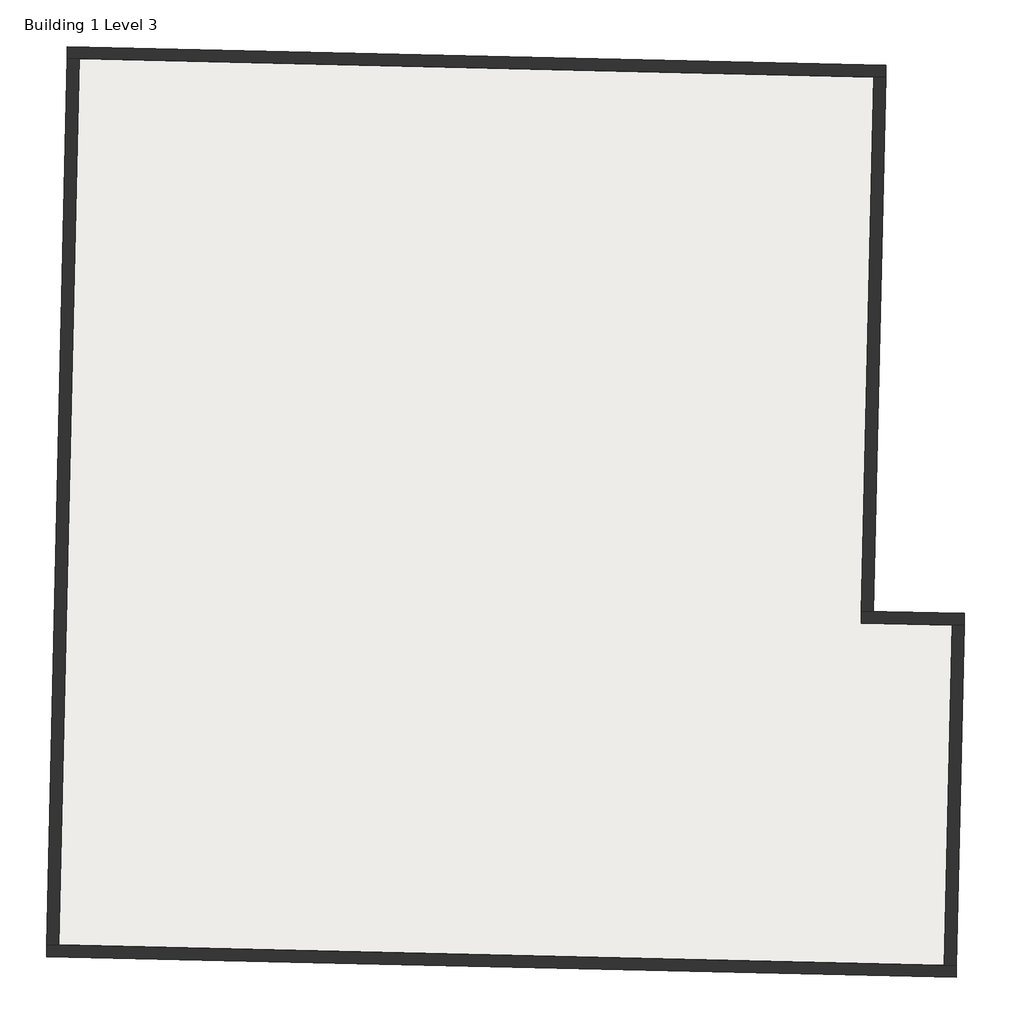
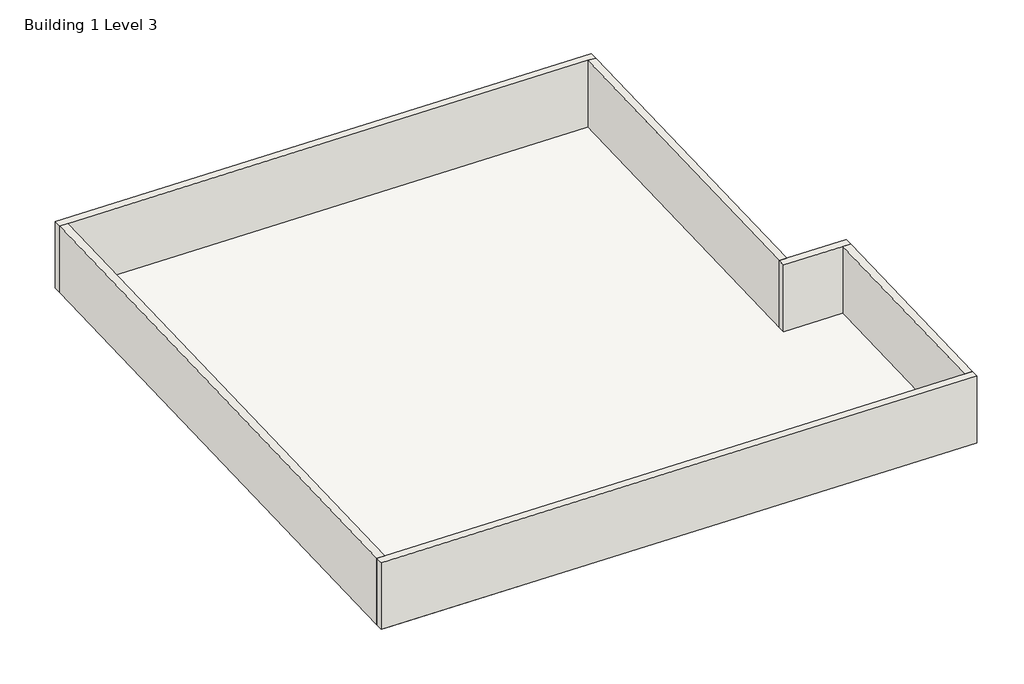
# One storey: 6 walls, 1 slab.
"""IFC4 building model written with IfcOpenShell, lengths in millimetres."""

import ifcopenshell
import ifcopenshell.guid

model = None  # the IFC model being written
_history = None  # IfcOwnerHistory: only IFC2X3 demands one
_inside = {}  # id of a spatial element -> (the spatial element, [elements in it])
_under = {}  # id of a project, library or spatial element -> (it, [spatial elements below it])
_declared = {}  # id of a project -> (the project, [libraries it declares])
_typed = {}  # id of a type object -> (the type object, [elements of that type])
_made_of = {}  # id of a material, layer set ... -> (it, [elements and type objects made of it])


def new_model(schema):
    """Start an empty IFC model of exactly this schema.

    Asked for "IFC4X3", IfcOpenShell would pick the latest addendum, in which some entities
    have other attributes; the version numbers below select the first issue.
    IFC2X3 requires an IfcOwnerHistory on every rooted entity: one is made here for all.
    """
    global model, _history
    if schema == "IFC4X3":
        model = ifcopenshell.file(schema_version=(4, 3, 0, 0))
    else:
        model = ifcopenshell.file(schema=schema)
    _inside.clear()
    _under.clear()
    _declared.clear()
    _typed.clear()
    _made_of.clear()
    _history = None
    if model.schema == "IFC2X3":
        org = make("IfcOrganization", Name="unknown")
        user = make(
            "IfcPersonAndOrganization",
            ThePerson=make("IfcPerson", FamilyName="unknown"),
            TheOrganization=org,
        )
        app = make(
            "IfcApplication",
            ApplicationDeveloper=org,
            Version="unknown",
            ApplicationFullName="unknown",
            ApplicationIdentifier="unknown",
        )
        _history = make(
            "IfcOwnerHistory",
            OwningUser=user,
            OwningApplication=app,
            ChangeAction="ADDED",
            CreationDate=0,
        )
    return model


def make(cls, **values):
    """One entity of the class cls with the attributes given. An attribute that is None is left unset."""
    return model.create_entity(
        cls, **{name: value for name, value in values.items() if value is not None}
    )


def rooted(cls, **values):
    """An entity with a GlobalId (a new one), such as an element, a storey or a relation."""
    return make(cls, GlobalId=ifcopenshell.guid.new(), OwnerHistory=_history, **values)


def si_unit(unit_type, name, prefix=None):
    """IfcSIUnit, for example si_unit("LENGTHUNIT", "METRE", prefix="MILLI")."""
    return make("IfcSIUnit", UnitType=unit_type, Prefix=prefix, Name=name)


def assignment(units):
    """IfcUnitAssignment: the units of a project."""
    return None if units is None else make("IfcUnitAssignment", Units=units)


def point(xyz):
    """IfcCartesianPoint."""
    return None if xyz is None else make("IfcCartesianPoint", Coordinates=xyz)


def direction(xyz):
    """IfcDirection."""
    return None if xyz is None else make("IfcDirection", DirectionRatios=xyz)


def frame(location, z_axis=None, x_axis=None):
    """IfcAxis2Placement3D, a coordinate frame: its origin and axes. An axis left out is left unset."""
    return make(
        "IfcAxis2Placement3D",
        Location=point(location),
        Axis=direction(z_axis),
        RefDirection=direction(x_axis),
    )


def origin():
    """The frame at (0, 0, 0) with its axes left unset."""
    return frame((0.0, 0.0, 0.0))


def place(relative_to, where):
    """IfcLocalPlacement: puts the frame where relative to a parent placement (None: the world)."""
    return make(
        "IfcLocalPlacement", PlacementRelTo=relative_to, RelativePlacement=where
    )


def context(
    kind, dimensions, precision=None, world=None, true_north=None, identifier=None
):
    """IfcGeometricRepresentationContext, for example the 3D "Model" context."""
    return make(
        "IfcGeometricRepresentationContext",
        ContextIdentifier=identifier,
        ContextType=kind,
        CoordinateSpaceDimension=dimensions,
        Precision=precision,
        WorldCoordinateSystem=world,
        TrueNorth=true_north,
    )


def project(units=None, contexts=None):
    """IfcProject with its units and contexts."""
    return rooted(
        "IfcProject",
        Name="project",
        RepresentationContexts=contexts,
        UnitsInContext=assignment(units),
    )


def spatial(cls, under=None, at=None, **own):
    """A site, building, storey or space (cls), placed at a placement, below another one or the project."""
    s = rooted(cls, ObjectPlacement=at, **own)
    if under is not None:
        _under.setdefault(under.id(), (under, []))[1].append(s)
    return s


def faces_of(points, faces, orient=None, outer=None):
    """IfcFace entities. A face is a list of loops; a loop is a list of indices into points, from 0.

    orient and outer hold one flag for each loop. By default every Orientation is true, the
    first loop of a face is its IfcFaceOuterBound and the others are IfcFaceBound.
    """
    made = []
    for i, loops in enumerate(faces):
        bounds = []
        for j, loop in enumerate(loops):
            is_outer = j == 0 if outer is None else outer[i][j]
            bounds.append(
                make(
                    "IfcFaceOuterBound" if is_outer else "IfcFaceBound",
                    Bound=make("IfcPolyLoop", Polygon=[points[k] for k in loop]),
                    Orientation=True if orient is None else orient[i][j],
                )
            )
        made.append(make("IfcFace", Bounds=bounds))
    return made


def faceted_brep(points, faces, orient=None, outer=None, voids=None):
    """IfcFacetedBrep: a solid bounded by flat faces; with voids (closed shells), ...WithVoids."""
    shared = [point(p) for p in points]
    hull = make("IfcClosedShell", CfsFaces=faces_of(shared, faces, orient, outer))
    if voids is None:
        return make("IfcFacetedBrep", Outer=hull)
    return make(
        "IfcFacetedBrepWithVoids",
        Outer=hull,
        Voids=[
            make(cls, CfsFaces=faces_of(shared, fs, o, b)) for cls, fs, o, b in voids
        ],
    )


def shape(context_of_items, identifier, shape_type, items):
    """IfcShapeRepresentation: the items that make up one representation, for example the "Body"."""
    return make(
        "IfcShapeRepresentation",
        ContextOfItems=context_of_items,
        RepresentationIdentifier=identifier,
        RepresentationType=shape_type,
        Items=items,
    )


def made_of(thing, what):
    """Note that an element or type object is made of a material, layer set ...; save() writes the relation."""
    if what is not None:
        _made_of.setdefault(what.id(), (what, []))[1].append(thing)
    return thing


def element(
    cls,
    number,
    at=None,
    inside=None,
    cuts=None,
    type_object=None,
    material=None,
    context=None,
    identifier="Body",
    shape_type=None,
    held_by="IfcProductDefinitionShape",
    body=None,
    shapes=None,
    **own,
):
    """One element of the class cls, such as IfcWall. Its Tag is "e" and its number.

    at: its placement. inside: the storey or other place that contains it. cuts: it is an
    opening in that element (IfcRelVoidsElement). A single representation is given by context,
    identifier, shape_type and body (its items); several are given by shapes. held_by: the class
    of the entity that holds the representations. save() writes the other relations.
    """
    e = rooted(cls, Tag="e%d" % number, ObjectPlacement=at, **own)
    if body is not None:
        shapes = [shape(context, identifier, shape_type, body)]
    if shapes is not None:
        e.Representation = make(held_by, Representations=shapes)
    if inside is not None:
        _inside.setdefault(inside.id(), (inside, []))[1].append(e)
    if cuts is not None:
        rooted(
            "IfcRelVoidsElement", RelatingBuildingElement=cuts, RelatedOpeningElement=e
        )
    if type_object is not None:
        _typed.setdefault(type_object.id(), (type_object, []))[1].append(e)
    return made_of(e, material)


def aggregate(whole, parts):
    """IfcRelAggregates: a whole, such as a stair, and the parts it consists of."""
    return rooted("IfcRelAggregates", RelatingObject=whole, RelatedObjects=parts)


def save(model, path):
    """Write the relations noted so far, then the file.

    IfcRelAggregates (storeys below a building ...), IfcRelContainedInSpatialStructure (elements
    in a storey), IfcRelDefinesByType, IfcRelAssociatesMaterial and IfcRelDeclares: one each for
    every whole, place, type object, material and project.
    """
    for whole, parts in _under.values():
        aggregate(whole, parts)
    for where, things in _inside.values():
        rooted(
            "IfcRelContainedInSpatialStructure",
            RelatedElements=things,
            RelatingStructure=where,
        )
    for kind, things in _typed.values():
        rooted("IfcRelDefinesByType", RelatedObjects=things, RelatingType=kind)
    for what, things in _made_of.values():
        rooted("IfcRelAssociatesMaterial", RelatedObjects=things, RelatingMaterial=what)
    for by, libraries in _declared.values():
        rooted("IfcRelDeclares", RelatingContext=by, RelatedDefinitions=libraries)
    model.write(path)


model = new_model("IFC4")

# Units and contexts
model_context = context("Model", 3, world=origin())
ifc_project = project(units=[si_unit("LENGTHUNIT", "METRE", prefix="MILLI")], contexts=[model_context])

# Site, building, storey
site = spatial("IfcSite", under=ifc_project)
building = spatial("IfcBuilding", under=site)
storey = spatial("IfcBuildingStorey", under=building, Name="Building 1 Level 3", Elevation=8534.4)

# Slab
placement = place(None, origin())
element("IfcSlab", 1, ObjectType="Generic - 12\"", at=placement, inside=storey, context=model_context, shape_type="Brep", body=[
    faceted_brep([(-20144.0327268, -8567.5764647, 8229.6), (-19461.8361253, 21104.5823384, 8229.6), (7163.1279376, 20492.4441971, 8229.6), (6742.7771376, 2209.2757277, 8229.6), (9789.9718878, 2139.2172577, 8229.6), (9528.1260764, -9249.7730661, 8229.6), (-19461.8361253, 21104.5823384, 8534.4), (-20144.0327268, -8567.5764647, 8534.4), (9528.1260764, -9249.7730661, 8534.4), (9789.9718878, 2139.2172577, 8534.4), (6742.7771376, 2209.2757277, 8534.4), (6751.9711621, 2609.1700511, 8534.4), (7163.1279376, 20492.4441971, 8534.4)], [[[0, 1, 2, 3, 4, 5]], [[6, 7, 8, 9, 10, 11, 12]], [[7, 0, 5, 8]], [[1, 6, 12, 2]], [[1, 0, 7, 6]], [[3, 10, 9, 4]], [[10, 3, 2, 12, 11]], [[5, 4, 9, 8]]]),
])

# Walls
element("IfcWall", 2, ObjectType="Exterior - 0.4m - Building 1", at=placement, inside=storey, context=model_context, shape_type="Brep", body=[
    faceted_brep([(-20553.1210745, -8958.2767638, 8534.4), (9918.8263755, -9658.8614138, 8534.4), (9918.8263755, -9658.8614138, 12192.0), (-20553.1210745, -8958.2767638, 12192.0), (-20543.9270502, -8558.3824404, 8534.4), (-20543.9270502, -8558.3824404, 12192.0), (-20144.0327268, -8567.5764647, 12192.0), (9528.1260764, -9249.7730661, 12192.0), (9928.0203998, -9258.9670904, 12192.0), (9928.0203998, -9258.9670904, 8534.4), (9528.1260764, -9249.7730661, 8534.4), (-20144.0327268, -8567.5764647, 8534.4)], [[[0, 1, 2, 3]], [[4, 5, 6, 7, 8, 9, 10, 11]], [[1, 0, 4, 11, 10, 9]], [[3, 2, 8, 7, 6, 5]], [[2, 1, 9, 8]], [[0, 3, 5, 4]]]),
])
element("IfcWall", 3, ObjectType="Exterior - 0.4m - Building 1", at=placement, inside=storey, context=model_context, shape_type="Brep", body=[
    faceted_brep([(7572.2162855, 20883.1444962, 8534.4), (-19852.5364245, 21513.6706862, 8534.4), (-19852.5364245, 21513.6706862, 12192.0), (7572.2162855, 20883.1444962, 12192.0), (7563.022261, 20483.2501727, 8534.4), (7563.022261, 20483.2501727, 12192.0), (7163.1279376, 20492.4441971, 12192.0), (-19461.8361253, 21104.5823384, 12192.0), (-19861.7304488, 21113.7763627, 12192.0), (-19861.7304488, 21113.7763627, 8534.4), (-19461.8361253, 21104.5823384, 8534.4), (7163.1279376, 20492.4441971, 8534.4)], [[[0, 1, 2, 3]], [[4, 5, 6, 7, 8, 9, 10, 11]], [[1, 0, 4, 11, 10, 9]], [[3, 2, 8, 7, 6, 5]], [[2, 1, 9, 8]], [[0, 3, 5, 4]]]),
])
element("IfcWall", 4, ObjectType="Exterior - 0.4m - Building 1", at=placement, inside=storey, context=model_context, shape_type="Brep", body=[
    faceted_brep([(-19861.7304488, 21113.7763627, 8534.4), (-20543.9270502, -8558.3824404, 8534.4), (-20543.9270502, -8558.3824404, 12192.0), (-19861.7304488, 21113.7763627, 12192.0), (-19461.8361253, 21104.5823384, 8534.4), (-19461.8361253, 21104.5823384, 11887.2), (-19461.8361253, 21104.5823384, 12192.0), (-20144.0327268, -8567.5764647, 12192.0), (-20144.0327268, -8567.5764647, 11887.2), (-20144.0327268, -8567.5764647, 8534.4)], [[[0, 1, 2, 3]], [[4, 5, 6, 7, 8, 9]], [[1, 0, 4, 9]], [[3, 2, 7, 6]], [[2, 1, 9, 8, 7]], [[0, 3, 6, 5, 4]]]),
])
element("IfcWall", 5, ObjectType="Exterior - 0.4m - Building 1", at=placement, inside=storey, context=model_context, shape_type="Brep", body=[
    faceted_brep([(10199.0602355, 2529.9175562, 8534.4), (7151.8654855, 2599.9760262, 8534.4), (6751.9711621, 2609.1700511, 8534.4), (6751.9711621, 2609.1700511, 12192.0), (7151.8654855, 2599.9760262, 12192.0), (10199.0602355, 2529.9175562, 12192.0), (10189.8662112, 2130.0232327, 8534.4), (10189.8662112, 2130.0232327, 12192.0), (9789.9718878, 2139.2172577, 12192.0), (6742.7771376, 2209.2757277, 12192.0), (6742.7771376, 2209.2757277, 11887.2), (6742.7771376, 2209.2757277, 8534.4), (9789.9718878, 2139.2172577, 8534.4)], [[[0, 1, 2, 3, 4, 5]], [[6, 7, 8, 9, 10, 11, 12]], [[2, 1, 0, 6, 12, 11]], [[5, 4, 3, 9, 8, 7]], [[0, 5, 7, 6]], [[3, 2, 11, 10, 9]]]),
])
element("IfcWall", 6, ObjectType="Exterior - 0.4m - Building 1", at=placement, inside=storey, context=model_context, shape_type="Brep", body=[
    faceted_brep([(7151.8654855, 2599.9760262, 8534.4), (7563.022261, 20483.2501727, 8534.4), (7563.022261, 20483.2501727, 12192.0), (7151.8654855, 2599.9760262, 12192.0), (6751.9711621, 2609.1700511, 8534.4), (6751.9711621, 2609.1700511, 12192.0), (7163.1279376, 20492.4441971, 12192.0), (7163.1279376, 20492.4441971, 11887.2), (7163.1279376, 20492.4441971, 8534.4)], [[[0, 1, 2, 3]], [[4, 5, 6, 7, 8]], [[1, 0, 4, 8]], [[3, 2, 6, 5]], [[2, 1, 8, 7, 6]], [[0, 3, 5, 4]]]),
])
element("IfcWall", 7, ObjectType="Exterior - 0.4m - Building 1", at=placement, inside=storey, context=model_context, shape_type="Brep", body=[
    faceted_brep([(9928.0203998, -9258.9670904, 8534.4), (10189.8662112, 2130.0232327, 8534.4), (10189.8662112, 2130.0232327, 12192.0), (9928.0203998, -9258.9670904, 12192.0), (9528.1260764, -9249.7730661, 8534.4), (9528.1260764, -9249.7730661, 11887.2), (9528.1260764, -9249.7730661, 12192.0), (9789.9718878, 2139.2172577, 12192.0), (9789.9718878, 2139.2172577, 11887.2), (9789.9718878, 2139.2172577, 8534.4)], [[[0, 1, 2, 3]], [[4, 5, 6, 7, 8, 9]], [[1, 0, 4, 9]], [[3, 2, 7, 6]], [[0, 3, 6, 5, 4]], [[2, 1, 9, 8, 7]]]),
])

save(model, "model.ifc")
